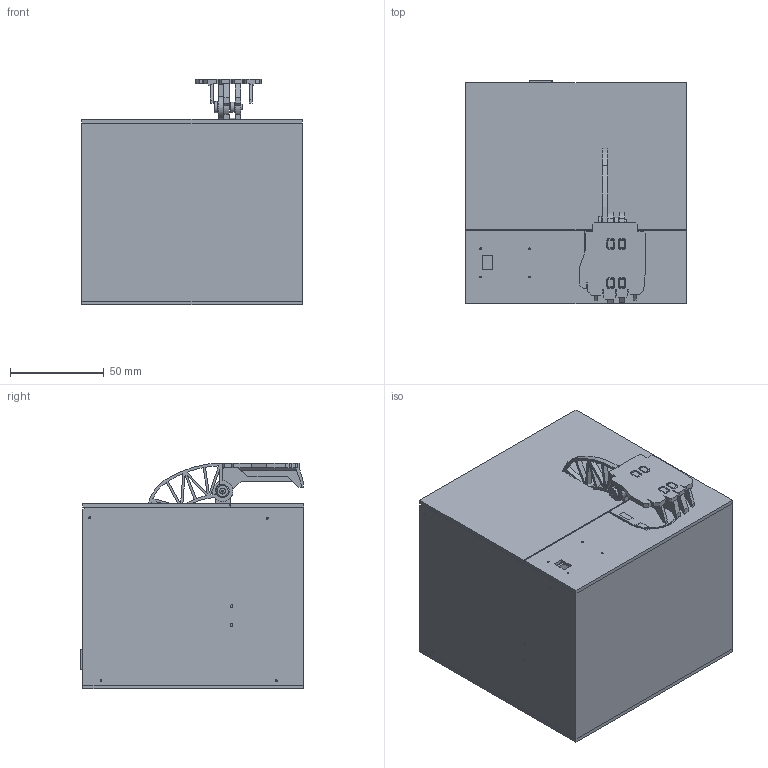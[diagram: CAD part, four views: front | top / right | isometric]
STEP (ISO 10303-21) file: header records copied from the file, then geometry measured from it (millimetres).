
FILE_DESCRIPTION(/* description */ (''),/* implementation_level */ '2;1');
FILE_NAME(/* name */ '存钱罐-3D打印.stp',/* time_stamp */ '2017-08-02T09:24:46+08:00',/* author */ (''),/* organization */ (''),/* preprocessor_version */ 'ST-DEVELOPER v16',/* originating_system */ 'SIEMENS PLM Software NX 10.0',/* authorisation */ '');
FILE_SCHEMA (('AP203_CONFIGURATION_CONTROLLED_3D_DESIGN_OF_MECHANICAL_PARTS_AND_ASSEMBLIES_MIM_LF { 1 0 10303 403 2 1 2}'));
Products named in the file (1): Admi113CAEC41a11
Bounding box: 118 x 119.54 x 120.66 mm (x, y, z)
Volume: 218437.2 mm3; surface area: 244347 mm2
Topology: 27 solids, 27 shells, 3947 faces, 10718 edges, 6859 vertices
Faces by surface type: plane 2613, cylinder 1093, sphere 114, bspline 68, cone 33, torus 26
Full cylindrical faces by diameter (mm): 1 x14, 1.1 x1, 1.2 x6, 1.4 x8, 1.7 x2, 2.2 x1, 2.3 x3, 3 x16, 3.1 x1, 3.2 x5, 3.3 x3, 3.5 x1, 3.77 x1, 4.2 x1, 4.4 x1, 4.8 x1, 5 x3, 5.4 x1, 5.6 x1, 6 x3, 6.9 x1, 7 x4, 24 x2
Entity records: 131621 total; most frequent: CARTESIAN_POINT 24736, ORIENTED_EDGE 21038, DIRECTION 20442, EDGE_CURVE 10519, LINE 8124, VECTOR 8124, VERTEX_POINT 6821, AXIS2_PLACEMENT_3D 6159
